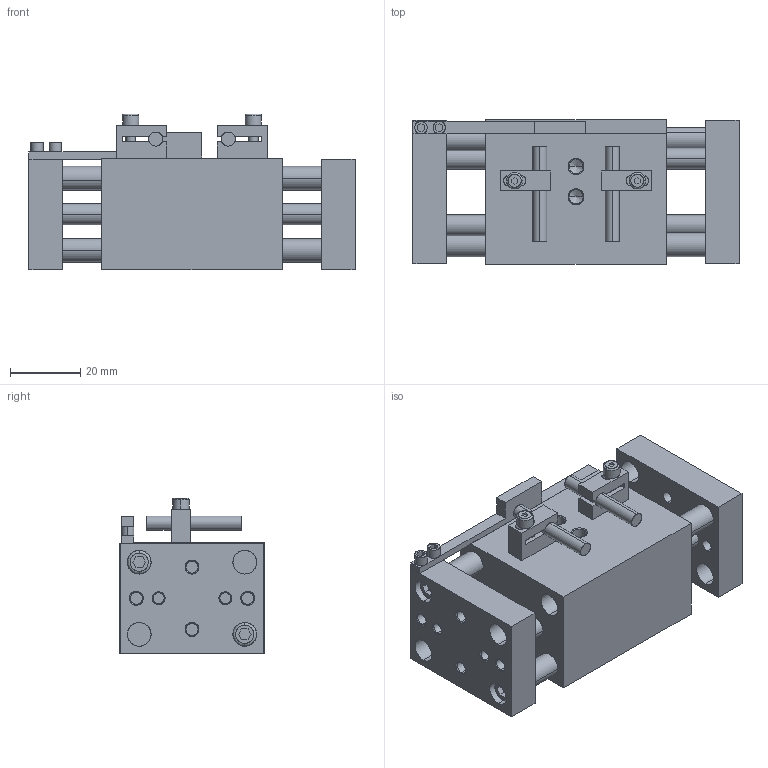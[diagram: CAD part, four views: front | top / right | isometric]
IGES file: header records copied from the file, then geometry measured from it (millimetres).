
Start section: SolidWorks IGES file using analytic representation for surfaces
Global section: file name: C:\Users\jmkuhnes\Pictures\AGW-250\AGW-250 OPEN in IN.IGS; native system: SolidWorks 2013; preprocessor: SolidWorks 2013; author: jmkuhnes; date: 141103.083919; units: inch
Bounding box: 92.96 x 41.27 x 44.45 mm (x, y, z)
Surface area: 38953.2 mm2 (no closed solid volume)
Topology: 0 solids, 0 shells, 370 faces, 5300 edges, 5284 vertices
Faces by surface type: revolution 194, bspline 176
